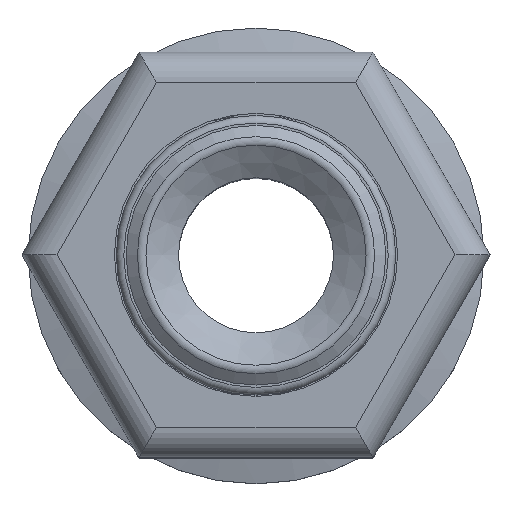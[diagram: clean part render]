
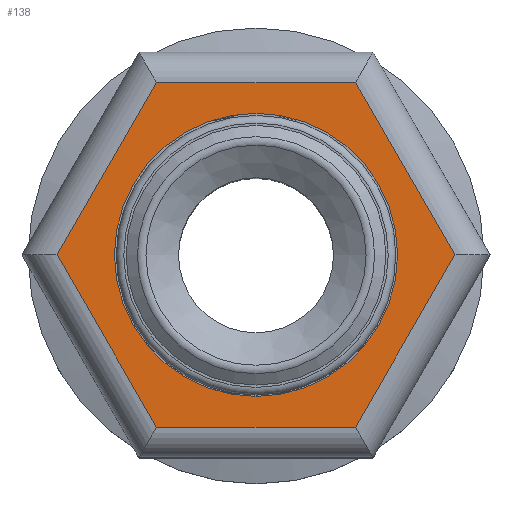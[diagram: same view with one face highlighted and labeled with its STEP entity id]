
A CAD part, top view. The second image highlights one B-rep face of the part: STEP entity #138.
In plain terms, the highlighted planar face has unit normal (0, 0, 1) as drawn and (0, 0, -1) by its records, which use the part's own axes.
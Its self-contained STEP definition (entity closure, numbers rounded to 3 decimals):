
#138 = ADVANCED_FACE( '', ( #273, #274 ), #275, .T. );
#273 = FACE_OUTER_BOUND( '', #451, .T. );
#274 = FACE_BOUND( '', #452, .T. );
#275 = PLANE( '', #453 );
#451 = EDGE_LOOP( '', ( #636, #637, #638, #639, #640, #641 ) );
#452 = EDGE_LOOP( '', ( #642 ) );
#453 = AXIS2_PLACEMENT_3D( '', #643, #644, #645 );
#636 = ORIENTED_EDGE( '', *, *, #916, .T. );
#637 = ORIENTED_EDGE( '', *, *, #917, .T. );
#638 = ORIENTED_EDGE( '', *, *, #918, .T. );
#639 = ORIENTED_EDGE( '', *, *, #919, .T. );
#640 = ORIENTED_EDGE( '', *, *, #920, .T. );
#641 = ORIENTED_EDGE( '', *, *, #921, .T. );
#642 = ORIENTED_EDGE( '', *, *, #922, .T. );
#643 = CARTESIAN_POINT( '', ( -7.7, 13.337, 0. ) );
#644 = DIRECTION( '', ( 0., 0., -1. ) );
#645 = DIRECTION( '', ( -1., 0., 0. ) );
#916 = EDGE_CURVE( '', #1034, #1035, #1036, .T. );
#917 = EDGE_CURVE( '', #1035, #1037, #1038, .T. );
#918 = EDGE_CURVE( '', #1037, #1039, #1040, .T. );
#919 = EDGE_CURVE( '', #1039, #1041, #1042, .T. );
#920 = EDGE_CURVE( '', #1041, #1043, #1044, .T. );
#921 = EDGE_CURVE( '', #1043, #1034, #1045, .T. );
#922 = EDGE_CURVE( '', #1046, #1046, #1047, .T. );
#1034 = VERTEX_POINT( '', #1199 );
#1035 = VERTEX_POINT( '', #1200 );
#1036 = LINE( '', #1201, #1202 );
#1037 = VERTEX_POINT( '', #1203 );
#1038 = LINE( '', #1204, #1205 );
#1039 = VERTEX_POINT( '', #1206 );
#1040 = LINE( '', #1207, #1208 );
#1041 = VERTEX_POINT( '', #1209 );
#1042 = LINE( '', #1210, #1211 );
#1043 = VERTEX_POINT( '', #1212 );
#1044 = LINE( '', #1213, #1214 );
#1045 = LINE( '', #1215, #1216 );
#1046 = VERTEX_POINT( '', #1217 );
#1047 = CIRCLE( '', #1218, 9.316 );
#1199 = CARTESIAN_POINT( '', ( 6.545, -11.337, 0. ) );
#1200 = CARTESIAN_POINT( '', ( -6.545, -11.337, 0. ) );
#1201 = CARTESIAN_POINT( '', ( -7.7, -11.337, 0. ) );
#1202 = VECTOR( '', #1425, 1000. );
#1203 = CARTESIAN_POINT( '', ( -13.091, 0., 0. ) );
#1204 = CARTESIAN_POINT( '', ( -17.518, 7.668, 0. ) );
#1205 = VECTOR( '', #1426, 1000. );
#1206 = CARTESIAN_POINT( '', ( -6.545, 11.337, 0. ) );
#1207 = CARTESIAN_POINT( '', ( -5.968, 12.337, 0. ) );
#1208 = VECTOR( '', #1427, 1000. );
#1209 = CARTESIAN_POINT( '', ( 6.545, 11.337, 0. ) );
#1210 = CARTESIAN_POINT( '', ( -7.7, 11.337, 0. ) );
#1211 = VECTOR( '', #1428, 1000. );
#1212 = CARTESIAN_POINT( '', ( 13.091, 0., 0. ) );
#1213 = CARTESIAN_POINT( '', ( 2.118, 19.005, 0. ) );
#1214 = VECTOR( '', #1429, 1000. );
#1215 = CARTESIAN_POINT( '', ( 13.668, 1., 0. ) );
#1216 = VECTOR( '', #1430, 1000. );
#1217 = CARTESIAN_POINT( '', ( 0., 9.316, 0. ) );
#1218 = AXIS2_PLACEMENT_3D( '', #1431, #1432, #1433 );
#1425 = DIRECTION( '', ( -1., 0., 0. ) );
#1426 = DIRECTION( '', ( -0.5, 0.866, 0. ) );
#1427 = DIRECTION( '', ( 0.5, 0.866, 0. ) );
#1428 = DIRECTION( '', ( 1., 0., 0. ) );
#1429 = DIRECTION( '', ( 0.5, -0.866, 0. ) );
#1430 = DIRECTION( '', ( -0.5, -0.866, 0. ) );
#1431 = CARTESIAN_POINT( '', ( 0., 0., 0. ) );
#1432 = DIRECTION( '', ( 0., 0., 1. ) );
#1433 = DIRECTION( '', ( 0., 1., 0. ) );
